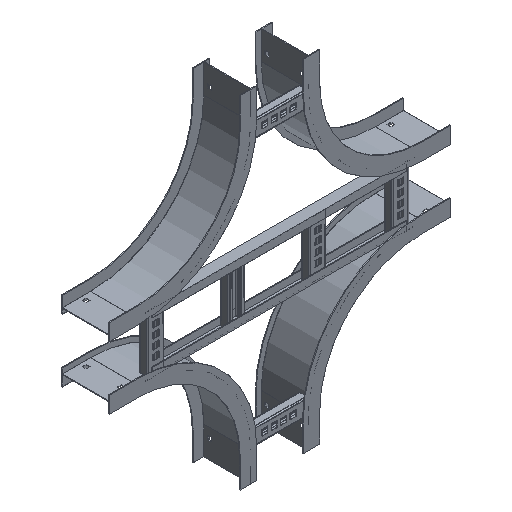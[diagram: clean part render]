
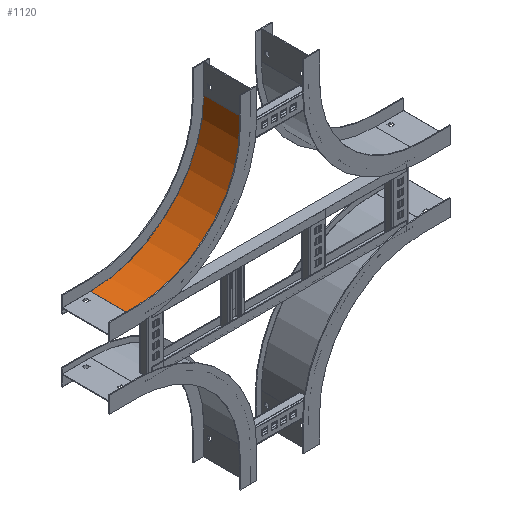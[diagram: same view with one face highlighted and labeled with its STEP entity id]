
A CAD part, isometric view. The second image highlights one B-rep face of the part: STEP entity #1120.
In plain terms, the highlighted cylindrical face has radius 304.8 mm (diameter 609.6 mm), a partial arc.
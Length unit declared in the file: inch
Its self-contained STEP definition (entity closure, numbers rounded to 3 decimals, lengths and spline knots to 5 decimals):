
#157=CARTESIAN_POINT('',(4.995,-12.,3.));
#158=DIRECTION('',(1.,0.,0.));
#159=DIRECTION('',(0.,1.,0.));
#160=AXIS2_PLACEMENT_3D('',#157,#158,#159);
#350=DIRECTION('',(1.,0.,0.));
#351=VECTOR('',#350,4.91);
#352=CARTESIAN_POINT('',(0.085,-12.,15.));
#353=LINE('',#352,#351);
#390=DIRECTION('',(1.,0.,0.));
#391=VECTOR('',#390,4.91);
#392=CARTESIAN_POINT('',(0.085,0.,3.));
#393=LINE('',#392,#391);
#394=CARTESIAN_POINT('',(0.085,-12.,3.));
#395=DIRECTION('',(1.,0.,0.));
#396=DIRECTION('',(0.,1.,0.));
#397=AXIS2_PLACEMENT_3D('',#394,#395,#396);
#521=CARTESIAN_POINT('',(0.085,0.,3.));
#522=CARTESIAN_POINT('',(4.995,0.,3.));
#523=VERTEX_POINT('',#521);
#524=VERTEX_POINT('',#522);
#545=CARTESIAN_POINT('',(0.085,-12.,15.));
#546=CARTESIAN_POINT('',(4.995,-12.,15.));
#547=VERTEX_POINT('',#545);
#548=VERTEX_POINT('',#546);
#1109=CARTESIAN_POINT('',(-1.,-12.,3.));
#1110=DIRECTION('',(1.,0.,0.));
#1111=DIRECTION('',(0.,-1.,0.));
#1112=AXIS2_PLACEMENT_3D('',#1109,#1110,#1111);
#1113=CYLINDRICAL_SURFACE('',#1112,12.);
#1114=ORIENTED_EDGE('',*,*,#894,.F.);
#1115=ORIENTED_EDGE('',*,*,#935,.T.);
#1116=ORIENTED_EDGE('',*,*,#1082,.T.);
#1117=ORIENTED_EDGE('',*,*,#872,.F.);
#1118=EDGE_LOOP('',(#1114,#1115,#1116,#1117));
#1119=FACE_OUTER_BOUND('',#1118,.F.);
#1120=ADVANCED_FACE('',(#1119),#1113,.F.);
#161=CIRCLE('',#160,12.);
#398=CIRCLE('',#397,12.);
#872=EDGE_CURVE('',#524,#548,#161,.T.);
#894=EDGE_CURVE('',#523,#524,#393,.T.);
#935=EDGE_CURVE('',#523,#547,#398,.T.);
#1082=EDGE_CURVE('',#547,#548,#353,.T.);
